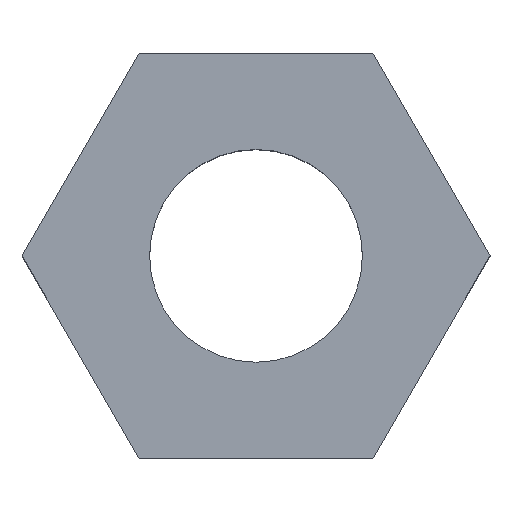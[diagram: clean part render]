
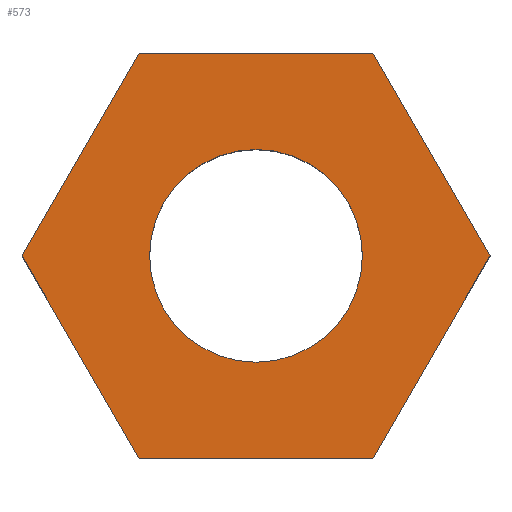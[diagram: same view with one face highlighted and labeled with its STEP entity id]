
A CAD part, top view. The second image highlights one B-rep face of the part: STEP entity #573.
In plain terms, the highlighted planar face has unit normal (0, 0, 1).
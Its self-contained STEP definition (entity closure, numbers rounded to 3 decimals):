
#24 = VERTEX_POINT('',#25);
#25 = CARTESIAN_POINT('',(83.253,-20.,1.6));
#32 = PLANE('',#33);
#33 = AXIS2_PLACEMENT_3D('',#34,#35,#36);
#34 = CARTESIAN_POINT('',(83.253,-20.,0.));
#35 = DIRECTION('',(-0.866,-0.5,0.));
#36 = DIRECTION('',(-0.5,0.866,0.));
#44 = PLANE('',#45);
#45 = AXIS2_PLACEMENT_3D('',#46,#47,#48);
#46 = CARTESIAN_POINT('',(82.099,-22.,0.));
#47 = DIRECTION('',(-0.866,0.5,0.));
#48 = DIRECTION('',(0.5,0.866,0.));
#56 = EDGE_CURVE('',#24,#57,#59,.T.);
#57 = VERTEX_POINT('',#58);
#58 = CARTESIAN_POINT('',(82.099,-18.,1.6));
#59 = SURFACE_CURVE('',#60,(#64,#71),.PCURVE_S1.);
#60 = LINE('',#61,#62);
#61 = CARTESIAN_POINT('',(83.253,-20.,1.6));
#62 = VECTOR('',#63,1.);
#63 = DIRECTION('',(-0.5,0.866,0.));
#64 = PCURVE('',#32,#65);
#65 = DEFINITIONAL_REPRESENTATION('',(#66),#70);
#66 = LINE('',#67,#68);
#67 = CARTESIAN_POINT('',(0.,-1.6));
#68 = VECTOR('',#69,1.);
#69 = DIRECTION('',(1.,0.));
#70 = ( GEOMETRIC_REPRESENTATION_CONTEXT(2) 
PARAMETRIC_REPRESENTATION_CONTEXT() REPRESENTATION_CONTEXT('2D SPACE',''
  ) );
#71 = PCURVE('',#72,#77);
#72 = PLANE('',#73);
#73 = AXIS2_PLACEMENT_3D('',#74,#75,#76);
#74 = CARTESIAN_POINT('',(80.944,-20.,1.6));
#75 = DIRECTION('',(0.,0.,1.));
#76 = DIRECTION('',(1.,0.,-0.));
#77 = DEFINITIONAL_REPRESENTATION('',(#78),#82);
#78 = LINE('',#79,#80);
#79 = CARTESIAN_POINT('',(2.309,0.));
#80 = VECTOR('',#81,1.);
#81 = DIRECTION('',(-0.5,0.866));
#82 = ( GEOMETRIC_REPRESENTATION_CONTEXT(2) 
PARAMETRIC_REPRESENTATION_CONTEXT() REPRESENTATION_CONTEXT('2D SPACE',''
  ) );
#100 = PLANE('',#101);
#101 = AXIS2_PLACEMENT_3D('',#102,#103,#104);
#102 = CARTESIAN_POINT('',(82.099,-18.,0.));
#103 = DIRECTION('',(0.,-1.,0.));
#104 = DIRECTION('',(-1.,0.,0.));
#142 = EDGE_CURVE('',#57,#143,#145,.T.);
#143 = VERTEX_POINT('',#144);
#144 = CARTESIAN_POINT('',(79.789,-18.,1.6));
#145 = SURFACE_CURVE('',#146,(#150,#157),.PCURVE_S1.);
#146 = LINE('',#147,#148);
#147 = CARTESIAN_POINT('',(82.099,-18.,1.6));
#148 = VECTOR('',#149,1.);
#149 = DIRECTION('',(-1.,0.,0.));
#150 = PCURVE('',#100,#151);
#151 = DEFINITIONAL_REPRESENTATION('',(#152),#156);
#152 = LINE('',#153,#154);
#153 = CARTESIAN_POINT('',(0.,-1.6));
#154 = VECTOR('',#155,1.);
#155 = DIRECTION('',(1.,0.));
#156 = ( GEOMETRIC_REPRESENTATION_CONTEXT(2) 
PARAMETRIC_REPRESENTATION_CONTEXT() REPRESENTATION_CONTEXT('2D SPACE',''
  ) );
#157 = PCURVE('',#72,#158);
#158 = DEFINITIONAL_REPRESENTATION('',(#159),#163);
#159 = LINE('',#160,#161);
#160 = CARTESIAN_POINT('',(1.155,2.));
#161 = VECTOR('',#162,1.);
#162 = DIRECTION('',(-1.,0.));
#163 = ( GEOMETRIC_REPRESENTATION_CONTEXT(2) 
PARAMETRIC_REPRESENTATION_CONTEXT() REPRESENTATION_CONTEXT('2D SPACE',''
  ) );
#181 = PLANE('',#182);
#182 = AXIS2_PLACEMENT_3D('',#183,#184,#185);
#183 = CARTESIAN_POINT('',(79.789,-18.,0.));
#184 = DIRECTION('',(0.866,-0.5,0.));
#185 = DIRECTION('',(-0.5,-0.866,0.));
#218 = EDGE_CURVE('',#143,#219,#221,.T.);
#219 = VERTEX_POINT('',#220);
#220 = CARTESIAN_POINT('',(78.635,-20.,1.6));
#221 = SURFACE_CURVE('',#222,(#226,#233),.PCURVE_S1.);
#222 = LINE('',#223,#224);
#223 = CARTESIAN_POINT('',(79.789,-18.,1.6));
#224 = VECTOR('',#225,1.);
#225 = DIRECTION('',(-0.5,-0.866,0.));
#226 = PCURVE('',#181,#227);
#227 = DEFINITIONAL_REPRESENTATION('',(#228),#232);
#228 = LINE('',#229,#230);
#229 = CARTESIAN_POINT('',(0.,-1.6));
#230 = VECTOR('',#231,1.);
#231 = DIRECTION('',(1.,0.));
#232 = ( GEOMETRIC_REPRESENTATION_CONTEXT(2) 
PARAMETRIC_REPRESENTATION_CONTEXT() REPRESENTATION_CONTEXT('2D SPACE',''
  ) );
#233 = PCURVE('',#72,#234);
#234 = DEFINITIONAL_REPRESENTATION('',(#235),#239);
#235 = LINE('',#236,#237);
#236 = CARTESIAN_POINT('',(-1.155,2.));
#237 = VECTOR('',#238,1.);
#238 = DIRECTION('',(-0.5,-0.866));
#239 = ( GEOMETRIC_REPRESENTATION_CONTEXT(2) 
PARAMETRIC_REPRESENTATION_CONTEXT() REPRESENTATION_CONTEXT('2D SPACE',''
  ) );
#257 = PLANE('',#258);
#258 = AXIS2_PLACEMENT_3D('',#259,#260,#261);
#259 = CARTESIAN_POINT('',(78.635,-20.,0.));
#260 = DIRECTION('',(0.866,0.5,-0.));
#261 = DIRECTION('',(0.5,-0.866,0.));
#294 = EDGE_CURVE('',#219,#295,#297,.T.);
#295 = VERTEX_POINT('',#296);
#296 = CARTESIAN_POINT('',(79.789,-22.,1.6));
#297 = SURFACE_CURVE('',#298,(#302,#309),.PCURVE_S1.);
#298 = LINE('',#299,#300);
#299 = CARTESIAN_POINT('',(78.635,-20.,1.6));
#300 = VECTOR('',#301,1.);
#301 = DIRECTION('',(0.5,-0.866,0.));
#302 = PCURVE('',#257,#303);
#303 = DEFINITIONAL_REPRESENTATION('',(#304),#308);
#304 = LINE('',#305,#306);
#305 = CARTESIAN_POINT('',(0.,-1.6));
#306 = VECTOR('',#307,1.);
#307 = DIRECTION('',(1.,0.));
#308 = ( GEOMETRIC_REPRESENTATION_CONTEXT(2) 
PARAMETRIC_REPRESENTATION_CONTEXT() REPRESENTATION_CONTEXT('2D SPACE',''
  ) );
#309 = PCURVE('',#72,#310);
#310 = DEFINITIONAL_REPRESENTATION('',(#311),#315);
#311 = LINE('',#312,#313);
#312 = CARTESIAN_POINT('',(-2.309,0.));
#313 = VECTOR('',#314,1.);
#314 = DIRECTION('',(0.5,-0.866));
#315 = ( GEOMETRIC_REPRESENTATION_CONTEXT(2) 
PARAMETRIC_REPRESENTATION_CONTEXT() REPRESENTATION_CONTEXT('2D SPACE',''
  ) );
#333 = PLANE('',#334);
#334 = AXIS2_PLACEMENT_3D('',#335,#336,#337);
#335 = CARTESIAN_POINT('',(79.789,-22.,0.));
#336 = DIRECTION('',(0.,1.,-0.));
#337 = DIRECTION('',(1.,0.,0.));
#370 = EDGE_CURVE('',#295,#371,#373,.T.);
#371 = VERTEX_POINT('',#372);
#372 = CARTESIAN_POINT('',(82.099,-22.,1.6));
#373 = SURFACE_CURVE('',#374,(#378,#385),.PCURVE_S1.);
#374 = LINE('',#375,#376);
#375 = CARTESIAN_POINT('',(79.789,-22.,1.6));
#376 = VECTOR('',#377,1.);
#377 = DIRECTION('',(1.,0.,0.));
#378 = PCURVE('',#333,#379);
#379 = DEFINITIONAL_REPRESENTATION('',(#380),#384);
#380 = LINE('',#381,#382);
#381 = CARTESIAN_POINT('',(0.,-1.6));
#382 = VECTOR('',#383,1.);
#383 = DIRECTION('',(1.,0.));
#384 = ( GEOMETRIC_REPRESENTATION_CONTEXT(2) 
PARAMETRIC_REPRESENTATION_CONTEXT() REPRESENTATION_CONTEXT('2D SPACE',''
  ) );
#385 = PCURVE('',#72,#386);
#386 = DEFINITIONAL_REPRESENTATION('',(#387),#391);
#387 = LINE('',#388,#389);
#388 = CARTESIAN_POINT('',(-1.155,-2.));
#389 = VECTOR('',#390,1.);
#390 = DIRECTION('',(1.,0.));
#391 = ( GEOMETRIC_REPRESENTATION_CONTEXT(2) 
PARAMETRIC_REPRESENTATION_CONTEXT() REPRESENTATION_CONTEXT('2D SPACE',''
  ) );
#441 = EDGE_CURVE('',#371,#24,#442,.T.);
#442 = SURFACE_CURVE('',#443,(#447,#454),.PCURVE_S1.);
#443 = LINE('',#444,#445);
#444 = CARTESIAN_POINT('',(82.099,-22.,1.6));
#445 = VECTOR('',#446,1.);
#446 = DIRECTION('',(0.5,0.866,0.));
#447 = PCURVE('',#44,#448);
#448 = DEFINITIONAL_REPRESENTATION('',(#449),#453);
#449 = LINE('',#450,#451);
#450 = CARTESIAN_POINT('',(0.,-1.6));
#451 = VECTOR('',#452,1.);
#452 = DIRECTION('',(1.,0.));
#453 = ( GEOMETRIC_REPRESENTATION_CONTEXT(2) 
PARAMETRIC_REPRESENTATION_CONTEXT() REPRESENTATION_CONTEXT('2D SPACE',''
  ) );
#454 = PCURVE('',#72,#455);
#455 = DEFINITIONAL_REPRESENTATION('',(#456),#460);
#456 = LINE('',#457,#458);
#457 = CARTESIAN_POINT('',(1.155,-2.));
#458 = VECTOR('',#459,1.);
#459 = DIRECTION('',(0.5,0.866));
#460 = ( GEOMETRIC_REPRESENTATION_CONTEXT(2) 
PARAMETRIC_REPRESENTATION_CONTEXT() REPRESENTATION_CONTEXT('2D SPACE',''
  ) );
#490 = VERTEX_POINT('',#491);
#491 = CARTESIAN_POINT('',(81.994,-20.,1.6));
#498 = CYLINDRICAL_SURFACE('',#499,1.05);
#499 = AXIS2_PLACEMENT_3D('',#500,#501,#502);
#500 = CARTESIAN_POINT('',(80.944,-20.,0.));
#501 = DIRECTION('',(-0.,-0.,-1.));
#502 = DIRECTION('',(1.,0.,0.));
#517 = EDGE_CURVE('',#490,#490,#518,.T.);
#518 = SURFACE_CURVE('',#519,(#524,#531),.PCURVE_S1.);
#519 = CIRCLE('',#520,1.05);
#520 = AXIS2_PLACEMENT_3D('',#521,#522,#523);
#521 = CARTESIAN_POINT('',(80.944,-20.,1.6));
#522 = DIRECTION('',(0.,0.,1.));
#523 = DIRECTION('',(1.,0.,0.));
#524 = PCURVE('',#498,#525);
#525 = DEFINITIONAL_REPRESENTATION('',(#526),#530);
#526 = LINE('',#527,#528);
#527 = CARTESIAN_POINT('',(-0.,-1.6));
#528 = VECTOR('',#529,1.);
#529 = DIRECTION('',(-1.,0.));
#530 = ( GEOMETRIC_REPRESENTATION_CONTEXT(2) 
PARAMETRIC_REPRESENTATION_CONTEXT() REPRESENTATION_CONTEXT('2D SPACE',''
  ) );
#531 = PCURVE('',#72,#532);
#532 = DEFINITIONAL_REPRESENTATION('',(#533),#537);
#533 = CIRCLE('',#534,1.05);
#534 = AXIS2_PLACEMENT_2D('',#535,#536);
#535 = CARTESIAN_POINT('',(0.,0.));
#536 = DIRECTION('',(1.,0.));
#537 = ( GEOMETRIC_REPRESENTATION_CONTEXT(2) 
PARAMETRIC_REPRESENTATION_CONTEXT() REPRESENTATION_CONTEXT('2D SPACE',''
  ) );
#573 = ADVANCED_FACE('',(#574,#582),#72,.T.);
#574 = FACE_BOUND('',#575,.T.);
#575 = EDGE_LOOP('',(#576,#577,#578,#579,#580,#581));
#576 = ORIENTED_EDGE('',*,*,#56,.T.);
#577 = ORIENTED_EDGE('',*,*,#142,.T.);
#578 = ORIENTED_EDGE('',*,*,#218,.T.);
#579 = ORIENTED_EDGE('',*,*,#294,.T.);
#580 = ORIENTED_EDGE('',*,*,#370,.T.);
#581 = ORIENTED_EDGE('',*,*,#441,.T.);
#582 = FACE_BOUND('',#583,.T.);
#583 = EDGE_LOOP('',(#584));
#584 = ORIENTED_EDGE('',*,*,#517,.F.);
